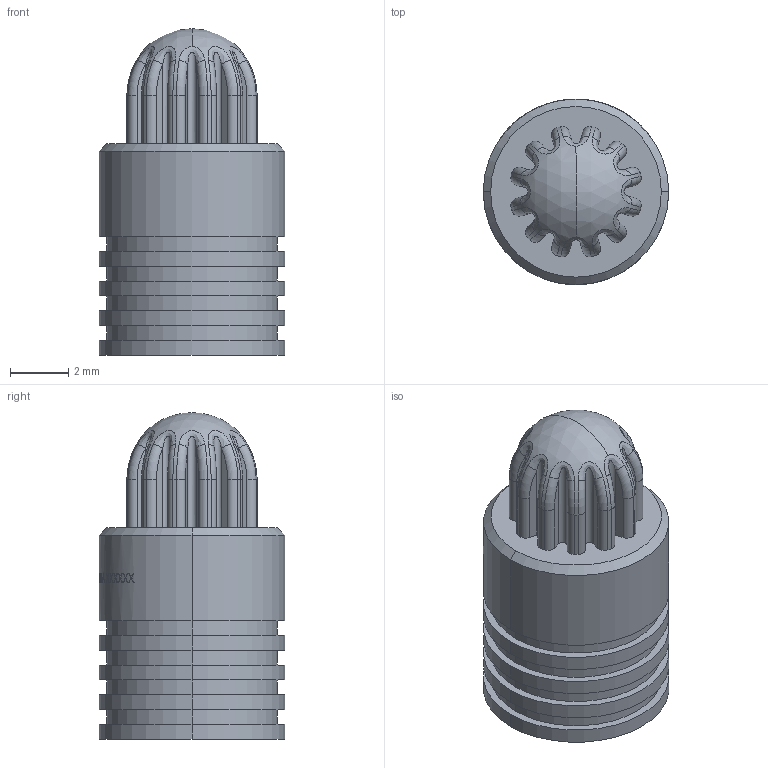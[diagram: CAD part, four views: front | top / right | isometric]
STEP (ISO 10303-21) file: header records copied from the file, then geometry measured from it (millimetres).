
FILE_DESCRIPTION (( 'STEP AP214' ), '1' );
FILE_NAME ('3DFSCA2500000A.STEP', '2021-03-31T18:09:34', ( '' ), ( '' ), 'SwSTEP 2.0', 'SolidWorks 2019', '' );
FILE_SCHEMA (( 'AUTOMOTIVE_DESIGN' ));
Length unit declared in the file: inch
Products named in the file (1): 3DFSCA2500000A
Bounding box: 6.35 x 6.35 x 11.18 mm (x, y, z)
Volume: 229.1 mm3; surface area: 354.7 mm2
Topology: 1 solids, 1 shells, 420 faces, 1086 edges, 707 vertices
Faces by surface type: bspline 163, plane 118, cylinder 109, torus 24, cone 4, sphere 2
Entity records: 20911 total; most frequent: CARTESIAN_POINT 6963, ORIENTED_EDGE 2172, DIRECTION 1423, EDGE_CURVE 1086, VERTEX_POINT 707, AXIS2_PLACEMENT_3D 601, B_SPLINE_CURVE_WITH_KNOTS 522, EDGE_LOOP 459
